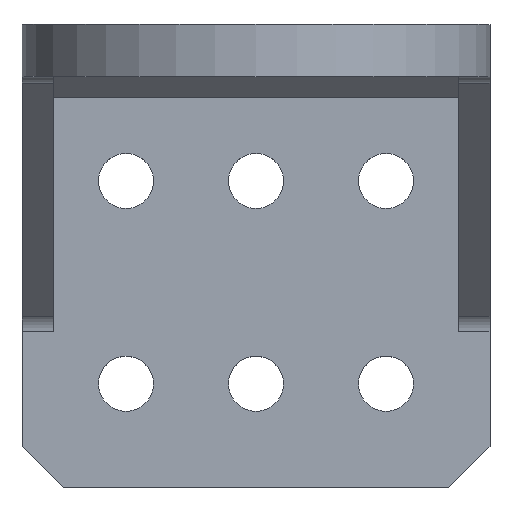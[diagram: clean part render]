
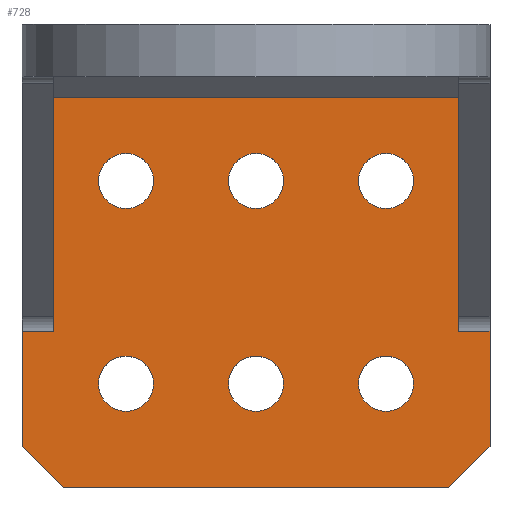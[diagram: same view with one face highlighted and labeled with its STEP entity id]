
A CAD part, top view. The second image highlights one B-rep face of the part: STEP entity #728.
In plain terms, the highlighted planar face has unit normal (0, 0, 1).
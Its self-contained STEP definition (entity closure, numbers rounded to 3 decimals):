
#41=FACE_BOUND('',#148,.T.);
#42=FACE_BOUND('',#149,.T.);
#43=FACE_BOUND('',#150,.T.);
#44=FACE_BOUND('',#151,.T.);
#45=FACE_BOUND('',#152,.T.);
#46=FACE_BOUND('',#153,.T.);
#73=CIRCLE('',#802,2.65);
#74=CIRCLE('',#803,2.65);
#75=CIRCLE('',#804,2.65);
#76=CIRCLE('',#805,2.65);
#77=CIRCLE('',#806,2.65);
#78=CIRCLE('',#807,2.65);
#103=FACE_OUTER_BOUND('',#147,.T.);
#147=EDGE_LOOP('',(#536,#537,#538,#539,#540,#541,#542,#543,#544,#545));
#148=EDGE_LOOP('',(#546));
#149=EDGE_LOOP('',(#547));
#150=EDGE_LOOP('',(#548));
#151=EDGE_LOOP('',(#549));
#152=EDGE_LOOP('',(#550));
#153=EDGE_LOOP('',(#551));
#208=LINE('',#1117,#273);
#212=LINE('',#1130,#277);
#215=LINE('',#1136,#280);
#218=LINE('',#1146,#283);
#219=LINE('',#1147,#284);
#220=LINE('',#1149,#285);
#221=LINE('',#1151,#286);
#222=LINE('',#1153,#287);
#223=LINE('',#1155,#288);
#224=LINE('',#1156,#289);
#273=VECTOR('',#894,10.);
#277=VECTOR('',#904,10.);
#280=VECTOR('',#909,10.);
#283=VECTOR('',#918,10.);
#284=VECTOR('',#919,10.);
#285=VECTOR('',#920,10.);
#286=VECTOR('',#921,10.);
#287=VECTOR('',#922,10.);
#288=VECTOR('',#923,10.);
#289=VECTOR('',#924,10.);
#345=VERTEX_POINT('',#1114);
#346=VERTEX_POINT('',#1116);
#350=VERTEX_POINT('',#1126);
#352=VERTEX_POINT('',#1129);
#354=VERTEX_POINT('',#1135);
#358=VERTEX_POINT('',#1145);
#359=VERTEX_POINT('',#1148);
#360=VERTEX_POINT('',#1150);
#361=VERTEX_POINT('',#1152);
#362=VERTEX_POINT('',#1154);
#363=VERTEX_POINT('',#1157);
#364=VERTEX_POINT('',#1159);
#365=VERTEX_POINT('',#1161);
#366=VERTEX_POINT('',#1163);
#367=VERTEX_POINT('',#1165);
#368=VERTEX_POINT('',#1167);
#415=EDGE_CURVE('',#345,#346,#208,.T.);
#421=EDGE_CURVE('',#350,#352,#212,.T.);
#424=EDGE_CURVE('',#354,#352,#215,.T.);
#429=EDGE_CURVE('',#350,#358,#218,.T.);
#430=EDGE_CURVE('',#346,#358,#219,.T.);
#431=EDGE_CURVE('',#359,#345,#220,.T.);
#432=EDGE_CURVE('',#360,#359,#221,.T.);
#433=EDGE_CURVE('',#361,#360,#222,.T.);
#434=EDGE_CURVE('',#361,#362,#223,.T.);
#435=EDGE_CURVE('',#354,#362,#224,.T.);
#436=EDGE_CURVE('',#363,#363,#73,.T.);
#437=EDGE_CURVE('',#364,#364,#74,.T.);
#438=EDGE_CURVE('',#365,#365,#75,.T.);
#439=EDGE_CURVE('',#366,#366,#76,.T.);
#440=EDGE_CURVE('',#367,#367,#77,.T.);
#441=EDGE_CURVE('',#368,#368,#78,.T.);
#536=ORIENTED_EDGE('',*,*,#421,.F.);
#537=ORIENTED_EDGE('',*,*,#429,.T.);
#538=ORIENTED_EDGE('',*,*,#430,.F.);
#539=ORIENTED_EDGE('',*,*,#415,.F.);
#540=ORIENTED_EDGE('',*,*,#431,.F.);
#541=ORIENTED_EDGE('',*,*,#432,.F.);
#542=ORIENTED_EDGE('',*,*,#433,.F.);
#543=ORIENTED_EDGE('',*,*,#434,.T.);
#544=ORIENTED_EDGE('',*,*,#435,.F.);
#545=ORIENTED_EDGE('',*,*,#424,.T.);
#546=ORIENTED_EDGE('',*,*,#436,.T.);
#547=ORIENTED_EDGE('',*,*,#437,.T.);
#548=ORIENTED_EDGE('',*,*,#438,.T.);
#549=ORIENTED_EDGE('',*,*,#439,.T.);
#550=ORIENTED_EDGE('',*,*,#440,.T.);
#551=ORIENTED_EDGE('',*,*,#441,.T.);
#710=PLANE('',#801);
#728=ADVANCED_FACE('',(#103,#41,#42,#43,#44,#45,#46),#710,.T.);
#801=AXIS2_PLACEMENT_3D('',#1144,#916,#917);
#802=AXIS2_PLACEMENT_3D('',#1158,#925,#926);
#803=AXIS2_PLACEMENT_3D('',#1160,#927,#928);
#804=AXIS2_PLACEMENT_3D('',#1162,#929,#930);
#805=AXIS2_PLACEMENT_3D('',#1164,#931,#932);
#806=AXIS2_PLACEMENT_3D('',#1166,#933,#934);
#807=AXIS2_PLACEMENT_3D('',#1168,#935,#936);
#894=DIRECTION('',(0.,1.,0.));
#904=DIRECTION('',(1.,0.,0.));
#909=DIRECTION('',(0.,1.,0.));
#916=DIRECTION('center_axis',(0.,0.,1.));
#917=DIRECTION('ref_axis',(1.,0.,0.));
#918=DIRECTION('',(0.,-1.,0.));
#919=DIRECTION('',(1.,0.,0.));
#920=DIRECTION('',(-0.707,0.707,0.));
#921=DIRECTION('',(-1.,0.,0.));
#922=DIRECTION('',(-0.707,-0.707,0.));
#923=DIRECTION('',(0.,1.,0.));
#924=DIRECTION('',(1.,0.,0.));
#925=DIRECTION('center_axis',(0.,0.,-1.));
#926=DIRECTION('ref_axis',(1.,0.,0.));
#927=DIRECTION('center_axis',(0.,0.,-1.));
#928=DIRECTION('ref_axis',(1.,0.,0.));
#929=DIRECTION('center_axis',(0.,0.,-1.));
#930=DIRECTION('ref_axis',(1.,0.,0.));
#931=DIRECTION('center_axis',(0.,0.,-1.));
#932=DIRECTION('ref_axis',(1.,0.,0.));
#933=DIRECTION('center_axis',(0.,0.,-1.));
#934=DIRECTION('ref_axis',(1.,0.,0.));
#935=DIRECTION('center_axis',(0.,0.,-1.));
#936=DIRECTION('ref_axis',(1.,0.,0.));
#1114=CARTESIAN_POINT('',(-2.5,4.,3.));
#1116=CARTESIAN_POINT('',(-2.5,15.067,3.));
#1117=CARTESIAN_POINT('',(-2.5,0.,3.));
#1126=CARTESIAN_POINT('',(0.5,37.5,3.));
#1129=CARTESIAN_POINT('',(39.5,37.5,3.));
#1130=CARTESIAN_POINT('',(10.,37.5,3.));
#1135=CARTESIAN_POINT('',(39.5,15.067,3.));
#1136=CARTESIAN_POINT('',(39.5,23.724,3.));
#1144=CARTESIAN_POINT('Origin',(20.,19.75,3.));
#1145=CARTESIAN_POINT('',(0.5,15.067,3.));
#1146=CARTESIAN_POINT('',(0.5,23.724,3.));
#1147=CARTESIAN_POINT('',(8.75,15.067,3.));
#1148=CARTESIAN_POINT('',(1.5,0.,3.));
#1149=CARTESIAN_POINT('',(0.187,1.313,3.));
#1150=CARTESIAN_POINT('',(38.5,0.,3.));
#1151=CARTESIAN_POINT('',(42.5,0.,3.));
#1152=CARTESIAN_POINT('',(42.5,4.,3.));
#1153=CARTESIAN_POINT('',(39.813,1.313,3.));
#1154=CARTESIAN_POINT('',(42.5,15.067,3.));
#1155=CARTESIAN_POINT('',(42.5,0.,3.));
#1156=CARTESIAN_POINT('',(31.25,15.067,3.));
#1157=CARTESIAN_POINT('',(4.85,10.,3.));
#1158=CARTESIAN_POINT('Origin',(7.5,10.,3.));
#1159=CARTESIAN_POINT('',(17.35,29.5,3.));
#1160=CARTESIAN_POINT('Origin',(20.,29.5,3.));
#1161=CARTESIAN_POINT('',(29.85,29.5,3.));
#1162=CARTESIAN_POINT('Origin',(32.5,29.5,3.));
#1163=CARTESIAN_POINT('',(4.85,29.5,3.));
#1164=CARTESIAN_POINT('Origin',(7.5,29.5,3.));
#1165=CARTESIAN_POINT('',(29.85,10.,3.));
#1166=CARTESIAN_POINT('Origin',(32.5,10.,3.));
#1167=CARTESIAN_POINT('',(17.35,10.,3.));
#1168=CARTESIAN_POINT('Origin',(20.,10.,3.));
